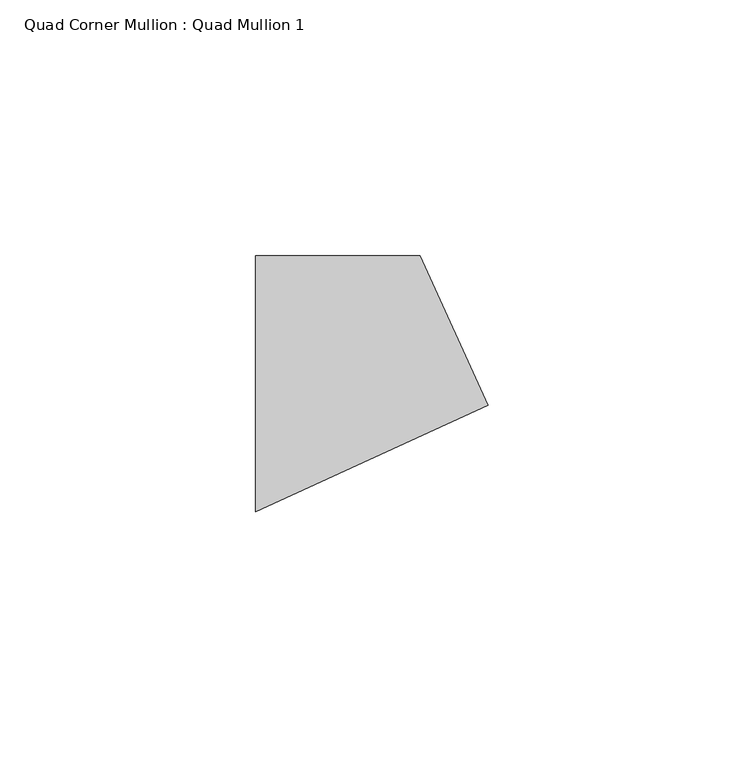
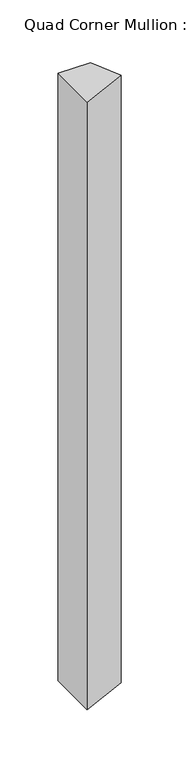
"""IFC4 building model written with IfcOpenShell, lengths in millimetres: member geometry, Quad Corner Mullion : Quad Mullion 1."""

import ifcopenshell
import ifcopenshell.guid

model = None  # the IFC model being written
_history = None  # IfcOwnerHistory: only IFC2X3 demands one
_inside = {}  # id of a spatial element -> (the spatial element, [elements in it])
_under = {}  # id of a project, library or spatial element -> (it, [spatial elements below it])
_declared = {}  # id of a project -> (the project, [libraries it declares])
_typed = {}  # id of a type object -> (the type object, [elements of that type])
_made_of = {}  # id of a material, layer set ... -> (it, [elements and type objects made of it])


def new_model(schema):
    """Start an empty IFC model of exactly this schema.

    Asked for "IFC4X3", IfcOpenShell would pick the latest addendum, in which some entities
    have other attributes; the version numbers below select the first issue.
    IFC2X3 requires an IfcOwnerHistory on every rooted entity: one is made here for all.
    """
    global model, _history
    if schema == "IFC4X3":
        model = ifcopenshell.file(schema_version=(4, 3, 0, 0))
    else:
        model = ifcopenshell.file(schema=schema)
    _inside.clear()
    _under.clear()
    _declared.clear()
    _typed.clear()
    _made_of.clear()
    _history = None
    if model.schema == "IFC2X3":
        org = make("IfcOrganization", Name="unknown")
        user = make(
            "IfcPersonAndOrganization",
            ThePerson=make("IfcPerson", FamilyName="unknown"),
            TheOrganization=org,
        )
        app = make(
            "IfcApplication",
            ApplicationDeveloper=org,
            Version="unknown",
            ApplicationFullName="unknown",
            ApplicationIdentifier="unknown",
        )
        _history = make(
            "IfcOwnerHistory",
            OwningUser=user,
            OwningApplication=app,
            ChangeAction="ADDED",
            CreationDate=0,
        )
    return model


def make(cls, **values):
    """One entity of the class cls with the attributes given. An attribute that is None is left unset."""
    return model.create_entity(
        cls, **{name: value for name, value in values.items() if value is not None}
    )


def rooted(cls, **values):
    """An entity with a GlobalId (a new one), such as an element, a storey or a relation."""
    return make(cls, GlobalId=ifcopenshell.guid.new(), OwnerHistory=_history, **values)


def si_unit(unit_type, name, prefix=None):
    """IfcSIUnit, for example si_unit("LENGTHUNIT", "METRE", prefix="MILLI")."""
    return make("IfcSIUnit", UnitType=unit_type, Prefix=prefix, Name=name)


def assignment(units):
    """IfcUnitAssignment: the units of a project."""
    return None if units is None else make("IfcUnitAssignment", Units=units)


def point(xyz):
    """IfcCartesianPoint."""
    return None if xyz is None else make("IfcCartesianPoint", Coordinates=xyz)


def direction(xyz):
    """IfcDirection."""
    return None if xyz is None else make("IfcDirection", DirectionRatios=xyz)


def frame(location, z_axis=None, x_axis=None):
    """IfcAxis2Placement3D, a coordinate frame: its origin and axes. An axis left out is left unset."""
    return make(
        "IfcAxis2Placement3D",
        Location=point(location),
        Axis=direction(z_axis),
        RefDirection=direction(x_axis),
    )


def origin():
    """The frame at (0, 0, 0) with its axes left unset."""
    return frame((0.0, 0.0, 0.0))


def place(relative_to, where):
    """IfcLocalPlacement: puts the frame where relative to a parent placement (None: the world)."""
    return make(
        "IfcLocalPlacement", PlacementRelTo=relative_to, RelativePlacement=where
    )


def context(
    kind, dimensions, precision=None, world=None, true_north=None, identifier=None
):
    """IfcGeometricRepresentationContext, for example the 3D "Model" context."""
    return make(
        "IfcGeometricRepresentationContext",
        ContextIdentifier=identifier,
        ContextType=kind,
        CoordinateSpaceDimension=dimensions,
        Precision=precision,
        WorldCoordinateSystem=world,
        TrueNorth=true_north,
    )


def project(units=None, contexts=None):
    """IfcProject with its units and contexts."""
    return rooted(
        "IfcProject",
        Name="project",
        RepresentationContexts=contexts,
        UnitsInContext=assignment(units),
    )


def spatial(cls, under=None, at=None, **own):
    """A site, building, storey or space (cls), placed at a placement, below another one or the project."""
    s = rooted(cls, ObjectPlacement=at, **own)
    if under is not None:
        _under.setdefault(under.id(), (under, []))[1].append(s)
    return s


def polyline(points):
    """IfcPolyline through the points."""
    return make("IfcPolyline", Points=[point(p) for p in points])


def outline(outer, holes=None, kind="AREA"):
    """IfcArbitraryClosedProfileDef: a profile drawn as a closed curve; with holes, ...WithVoids."""
    if holes is None:
        return make("IfcArbitraryClosedProfileDef", ProfileType=kind, OuterCurve=outer)
    return make(
        "IfcArbitraryProfileDefWithVoids",
        ProfileType=kind,
        OuterCurve=outer,
        InnerCurves=holes,
    )


def extrude(swept, where, along, depth):
    """IfcExtrudedAreaSolid: the profile swept, set in the frame where, extruded along a direction by depth."""
    return make(
        "IfcExtrudedAreaSolid",
        SweptArea=swept,
        Position=where,
        ExtrudedDirection=direction(along),
        Depth=depth,
    )


def shape(context_of_items, identifier, shape_type, items):
    """IfcShapeRepresentation: the items that make up one representation, for example the "Body"."""
    return make(
        "IfcShapeRepresentation",
        ContextOfItems=context_of_items,
        RepresentationIdentifier=identifier,
        RepresentationType=shape_type,
        Items=items,
    )


def source(mapping_origin, context_of_items, identifier, shape_type, items):
    """IfcRepresentationMap: a shape defined once, which mapped items show again and again."""
    return make(
        "IfcRepresentationMap",
        MappingOrigin=mapping_origin,
        MappedRepresentation=shape(context_of_items, identifier, shape_type, items),
    )


def transform(
    local_origin,
    x_axis=None,
    y_axis=None,
    z_axis=None,
    scale=None,
    scale2=None,
    scale3=None,
    uniform=True,
):
    """IfcCartesianTransformationOperator3D, or its non-uniform kind. x_axis, y_axis, z_axis: its Axis1, 2, 3."""
    if uniform:
        return make(
            "IfcCartesianTransformationOperator3D",
            Axis1=direction(x_axis),
            Axis2=direction(y_axis),
            LocalOrigin=point(local_origin),
            Scale=scale,
            Axis3=direction(z_axis),
        )
    return make(
        "IfcCartesianTransformationOperator3DnonUniform",
        Axis1=direction(x_axis),
        Axis2=direction(y_axis),
        LocalOrigin=point(local_origin),
        Scale=scale,
        Axis3=direction(z_axis),
        Scale2=scale2,
        Scale3=scale3,
    )


def mapped(mapping_source, mapping_target):
    """IfcMappedItem: shows the shape of a source again, moved by a transform."""
    return make(
        "IfcMappedItem", MappingSource=mapping_source, MappingTarget=mapping_target
    )


def made_of(thing, what):
    """Note that an element or type object is made of a material, layer set ...; save() writes the relation."""
    if what is not None:
        _made_of.setdefault(what.id(), (what, []))[1].append(thing)
    return thing


def element(
    cls,
    number,
    at=None,
    inside=None,
    cuts=None,
    type_object=None,
    material=None,
    context=None,
    identifier="Body",
    shape_type=None,
    held_by="IfcProductDefinitionShape",
    body=None,
    shapes=None,
    **own,
):
    """One element of the class cls, such as IfcWall. Its Tag is "e" and its number.

    at: its placement. inside: the storey or other place that contains it. cuts: it is an
    opening in that element (IfcRelVoidsElement). A single representation is given by context,
    identifier, shape_type and body (its items); several are given by shapes. held_by: the class
    of the entity that holds the representations. save() writes the other relations.
    """
    e = rooted(cls, Tag="e%d" % number, ObjectPlacement=at, **own)
    if body is not None:
        shapes = [shape(context, identifier, shape_type, body)]
    if shapes is not None:
        e.Representation = make(held_by, Representations=shapes)
    if inside is not None:
        _inside.setdefault(inside.id(), (inside, []))[1].append(e)
    if cuts is not None:
        rooted(
            "IfcRelVoidsElement", RelatingBuildingElement=cuts, RelatedOpeningElement=e
        )
    if type_object is not None:
        _typed.setdefault(type_object.id(), (type_object, []))[1].append(e)
    return made_of(e, material)


def aggregate(whole, parts):
    """IfcRelAggregates: a whole, such as a stair, and the parts it consists of."""
    return rooted("IfcRelAggregates", RelatingObject=whole, RelatedObjects=parts)


def save(model, path):
    """Write the relations noted so far, then the file.

    IfcRelAggregates (storeys below a building ...), IfcRelContainedInSpatialStructure (elements
    in a storey), IfcRelDefinesByType, IfcRelAssociatesMaterial and IfcRelDeclares: one each for
    every whole, place, type object, material and project.
    """
    for whole, parts in _under.values():
        aggregate(whole, parts)
    for where, things in _inside.values():
        rooted(
            "IfcRelContainedInSpatialStructure",
            RelatedElements=things,
            RelatingStructure=where,
        )
    for kind, things in _typed.values():
        rooted("IfcRelDefinesByType", RelatedObjects=things, RelatingType=kind)
    for what, things in _made_of.values():
        rooted("IfcRelAssociatesMaterial", RelatedObjects=things, RelatingMaterial=what)
    for by, libraries in _declared.values():
        rooted("IfcRelDeclares", RelatingContext=by, RelatedDefinitions=libraries)
    model.write(path)


def quad_corner_mullion_quad_mullion_1_828fae69(model_context):
    return source(origin(), model_context, "Body", "SweptSolid", [
        extrude(outline(polyline([(29.4125559, -4.1926582), (-16.0523154, -25.0), (-16.0523154, 25.0), (16.0523154, 25.0), (29.4125559, -4.1926582)])), frame((0.0, 0.0, -636.9639471), z_axis=(0.0, 0.0, 1.0), x_axis=(1.0, 0.0, 0.0)), (0.0, 0.0, 1.0), 636.9639471),
    ])


if __name__ == "__main__":
    model = new_model("IFC4")
    model_context = context("Model", 3, world=origin())
    ifc_project = project(units=[si_unit("LENGTHUNIT", "METRE", prefix="MILLI")], contexts=[model_context])
    site = spatial("IfcSite", under=ifc_project)
    building = spatial("IfcBuilding", under=site)
    placement = place(None, origin())
    quad_corner_mullion_quad_mullion_1_shape = quad_corner_mullion_quad_mullion_1_828fae69(model_context)
    element("IfcMember", 1, ObjectType="Quad Corner Mullion : Quad Mullion 1", at=placement, inside=building, context=model_context, shape_type="MappedRepresentation", body=[
        mapped(quad_corner_mullion_quad_mullion_1_shape, transform((0.0, 0.0, 0.0), x_axis=(1.0, 0.0, 0.0), y_axis=(0.0, 1.0, 0.0), z_axis=(0.0, 0.0, 1.0))),
    ])
    save(model, "model.ifc")
